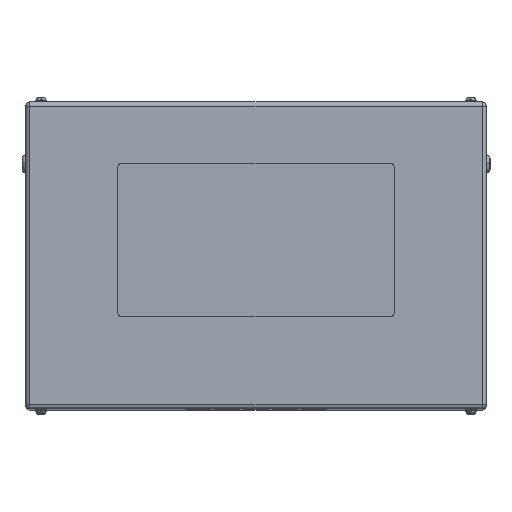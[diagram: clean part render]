
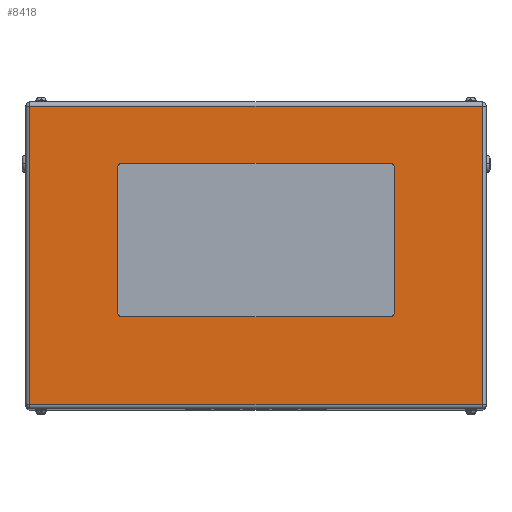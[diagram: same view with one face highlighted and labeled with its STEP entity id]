
A CAD part, top view. The second image highlights one B-rep face of the part: STEP entity #8418.
In plain terms, the highlighted planar face has unit normal (0, 0, 1).
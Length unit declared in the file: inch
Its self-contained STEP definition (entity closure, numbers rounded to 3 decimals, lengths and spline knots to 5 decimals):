
#123 = CARTESIAN_POINT ( 'NONE',  ( 14.734, 10., 23. ) ) ;
#208 = ORIENTED_EDGE ( 'NONE', *, *, #5393, .T. ) ;
#340 = CARTESIAN_POINT ( 'NONE',  ( -14.734, 10., 23. ) ) ;
#549 = FACE_BOUND ( 'NONE', #1726, .T. ) ;
#558 = VECTOR ( 'NONE', #4373, 39.37008 ) ;
#676 = LINE ( 'NONE', #18255, #558 ) ;
#1113 = CARTESIAN_POINT ( 'NONE',  ( -9., -3.75, 23. ) ) ;
#1244 = DIRECTION ( 'NONE',  ( 0., 0., 1. ) ) ;
#1628 = VERTEX_POINT ( 'NONE', #1113 ) ;
#1726 = EDGE_LOOP ( 'NONE', ( #20351, #20165, #6960, #6273, #15049, #9243, #20315, #12817 ) ) ;
#2182 = VECTOR ( 'NONE', #21335, 39.37008 ) ;
#3254 = VERTEX_POINT ( 'NONE', #8641 ) ;
#3613 = CARTESIAN_POINT ( 'NONE',  ( 14.734, -9.734, 23. ) ) ;
#3767 = EDGE_CURVE ( 'NONE', #10334, #1628, #676, .T. ) ;
#4136 = EDGE_CURVE ( 'NONE', #20420, #8807, #19492, .T. ) ;
#4172 = EDGE_CURVE ( 'NONE', #22034, #10334, #10675, .T. ) ;
#4373 = DIRECTION ( 'NONE',  ( 0., -1., 0. ) ) ;
#4703 = VERTEX_POINT ( 'NONE', #3613 ) ;
#4753 = DIRECTION ( 'NONE',  ( 1., 0., 0. ) ) ;
#5118 = LINE ( 'NONE', #5560, #15786 ) ;
#5139 = CARTESIAN_POINT ( 'NONE',  ( -8.75, 6., 23. ) ) ;
#5251 = AXIS2_PLACEMENT_3D ( 'NONE', #13440, #20441, #4753 ) ;
#5393 = EDGE_CURVE ( 'NONE', #19810, #16565, #13627, .T. ) ;
#5528 = CARTESIAN_POINT ( 'NONE',  ( -8.75, -4., 23. ) ) ;
#5544 = LINE ( 'NONE', #340, #16134 ) ;
#5560 = CARTESIAN_POINT ( 'NONE',  ( 14.734, -9.734, 23. ) ) ;
#5604 = DIRECTION ( 'NONE',  ( 1., 0., 0. ) ) ;
#5648 = CIRCLE ( 'NONE', #12947, 0.25 ) ;
#5767 = CARTESIAN_POINT ( 'NONE',  ( -8.75, -4., 23. ) ) ;
#6273 = ORIENTED_EDGE ( 'NONE', *, *, #4172, .F. ) ;
#6960 = ORIENTED_EDGE ( 'NONE', *, *, #3767, .F. ) ;
#7042 = LINE ( 'NONE', #123, #12724 ) ;
#7129 = DIRECTION ( 'NONE',  ( 0., -1., 0. ) ) ;
#7335 = LINE ( 'NONE', #5528, #2182 ) ;
#8022 = CARTESIAN_POINT ( 'NONE',  ( -14.734, 9.734, 23. ) ) ;
#8070 = CARTESIAN_POINT ( 'NONE',  ( 8.75, 5.75, 23. ) ) ;
#8145 = DIRECTION ( 'NONE',  ( -1., 0., 0. ) ) ;
#8152 = DIRECTION ( 'NONE',  ( 1., 0., 0. ) ) ;
#8418 = ADVANCED_FACE ( 'NONE', ( #549, #14578 ), #9515, .F. ) ;
#8452 = EDGE_CURVE ( 'NONE', #1628, #9548, #5648, .T. ) ;
#8590 = DIRECTION ( 'NONE',  ( -1., 0., 0. ) ) ;
#8641 = CARTESIAN_POINT ( 'NONE',  ( 8.75, -4., 23. ) ) ;
#8807 = VERTEX_POINT ( 'NONE', #19211 ) ;
#9243 = ORIENTED_EDGE ( 'NONE', *, *, #4136, .F. ) ;
#9515 = PLANE ( 'NONE',  #18076 ) ;
#9548 = VERTEX_POINT ( 'NONE', #5767 ) ;
#9605 = AXIS2_PLACEMENT_3D ( 'NONE', #8070, #22053, #13321 ) ;
#9607 = CARTESIAN_POINT ( 'NONE',  ( 9., 5.75, 23. ) ) ;
#9897 = ORIENTED_EDGE ( 'NONE', *, *, #12829, .T. ) ;
#10249 = DIRECTION ( 'NONE',  ( -1., 0., 0. ) ) ;
#10279 = CARTESIAN_POINT ( 'NONE',  ( -8.75, -3.75, 23. ) ) ;
#10334 = VERTEX_POINT ( 'NONE', #17998 ) ;
#10414 = ORIENTED_EDGE ( 'NONE', *, *, #19247, .T. ) ;
#10675 = CIRCLE ( 'NONE', #5251, 0.25 ) ;
#10965 = EDGE_CURVE ( 'NONE', #17081, #20420, #11428, .T. ) ;
#11014 = EDGE_LOOP ( 'NONE', ( #18263, #10414, #9897, #208 ) ) ;
#11428 = LINE ( 'NONE', #9607, #12218 ) ;
#11581 = VECTOR ( 'NONE', #10249, 39.37008 ) ;
#11703 = VERTEX_POINT ( 'NONE', #18051 ) ;
#12218 = VECTOR ( 'NONE', #22120, 39.37008 ) ;
#12672 = AXIS2_PLACEMENT_3D ( 'NONE', #13945, #1244, #8152 ) ;
#12724 = VECTOR ( 'NONE', #21050, 39.37008 ) ;
#12817 = ORIENTED_EDGE ( 'NONE', *, *, #20851, .F. ) ;
#12829 = EDGE_CURVE ( 'NONE', #4703, #19810, #7042, .T. ) ;
#12947 = AXIS2_PLACEMENT_3D ( 'NONE', #10279, #21305, #5604 ) ;
#13321 = DIRECTION ( 'NONE',  ( -1., 0., 0. ) ) ;
#13440 = CARTESIAN_POINT ( 'NONE',  ( -8.75, 5.75, 23. ) ) ;
#13627 = LINE ( 'NONE', #22242, #14446 ) ;
#13631 = DIRECTION ( 'NONE',  ( 0., 0., -1. ) ) ;
#13836 = EDGE_CURVE ( 'NONE', #16565, #11703, #5544, .T. ) ;
#13945 = CARTESIAN_POINT ( 'NONE',  ( 8.75, -3.75, 23. ) ) ;
#14040 = CARTESIAN_POINT ( 'NONE',  ( -8.75, 6., 23. ) ) ;
#14227 = CARTESIAN_POINT ( 'NONE',  ( 14.734, 9.734, 23. ) ) ;
#14446 = VECTOR ( 'NONE', #8145, 39.37008 ) ;
#14578 = FACE_OUTER_BOUND ( 'NONE', #11014, .T. ) ;
#14657 = EDGE_CURVE ( 'NONE', #9548, #3254, #7335, .T. ) ;
#15049 = ORIENTED_EDGE ( 'NONE', *, *, #21328, .F. ) ;
#15277 = CARTESIAN_POINT ( 'NONE',  ( 15., 10., 23. ) ) ;
#15333 = CARTESIAN_POINT ( 'NONE',  ( 9., 5.75, 23. ) ) ;
#15786 = VECTOR ( 'NONE', #21595, 39.37008 ) ;
#16134 = VECTOR ( 'NONE', #7129, 39.37008 ) ;
#16565 = VERTEX_POINT ( 'NONE', #8022 ) ;
#17081 = VERTEX_POINT ( 'NONE', #21211 ) ;
#17998 = CARTESIAN_POINT ( 'NONE',  ( -9., 5.75, 23. ) ) ;
#18051 = CARTESIAN_POINT ( 'NONE',  ( -14.734, -9.734, 23. ) ) ;
#18076 = AXIS2_PLACEMENT_3D ( 'NONE', #15277, #13631, #8590 ) ;
#18255 = CARTESIAN_POINT ( 'NONE',  ( -9., 5.75, 23. ) ) ;
#18263 = ORIENTED_EDGE ( 'NONE', *, *, #13836, .T. ) ;
#19211 = CARTESIAN_POINT ( 'NONE',  ( 8.75, 6., 23. ) ) ;
#19247 = EDGE_CURVE ( 'NONE', #11703, #4703, #5118, .T. ) ;
#19270 = CIRCLE ( 'NONE', #12672, 0.25 ) ;
#19492 = CIRCLE ( 'NONE', #9605, 0.25 ) ;
#19810 = VERTEX_POINT ( 'NONE', #14227 ) ;
#20165 = ORIENTED_EDGE ( 'NONE', *, *, #8452, .F. ) ;
#20315 = ORIENTED_EDGE ( 'NONE', *, *, #10965, .F. ) ;
#20351 = ORIENTED_EDGE ( 'NONE', *, *, #14657, .F. ) ;
#20420 = VERTEX_POINT ( 'NONE', #15333 ) ;
#20441 = DIRECTION ( 'NONE',  ( 0., 0., 1. ) ) ;
#20499 = LINE ( 'NONE', #5139, #11581 ) ;
#20851 = EDGE_CURVE ( 'NONE', #3254, #17081, #19270, .T. ) ;
#21050 = DIRECTION ( 'NONE',  ( 0., 1., 0. ) ) ;
#21211 = CARTESIAN_POINT ( 'NONE',  ( 9., -3.75, 23. ) ) ;
#21305 = DIRECTION ( 'NONE',  ( 0., 0., 1. ) ) ;
#21328 = EDGE_CURVE ( 'NONE', #8807, #22034, #20499, .T. ) ;
#21335 = DIRECTION ( 'NONE',  ( 1., 0., 0. ) ) ;
#21595 = DIRECTION ( 'NONE',  ( 1., 0., 0. ) ) ;
#22034 = VERTEX_POINT ( 'NONE', #14040 ) ;
#22053 = DIRECTION ( 'NONE',  ( 0., 0., 1. ) ) ;
#22120 = DIRECTION ( 'NONE',  ( 0., 1., 0. ) ) ;
#22242 = CARTESIAN_POINT ( 'NONE',  ( 15., 9.734, 23. ) ) ;
